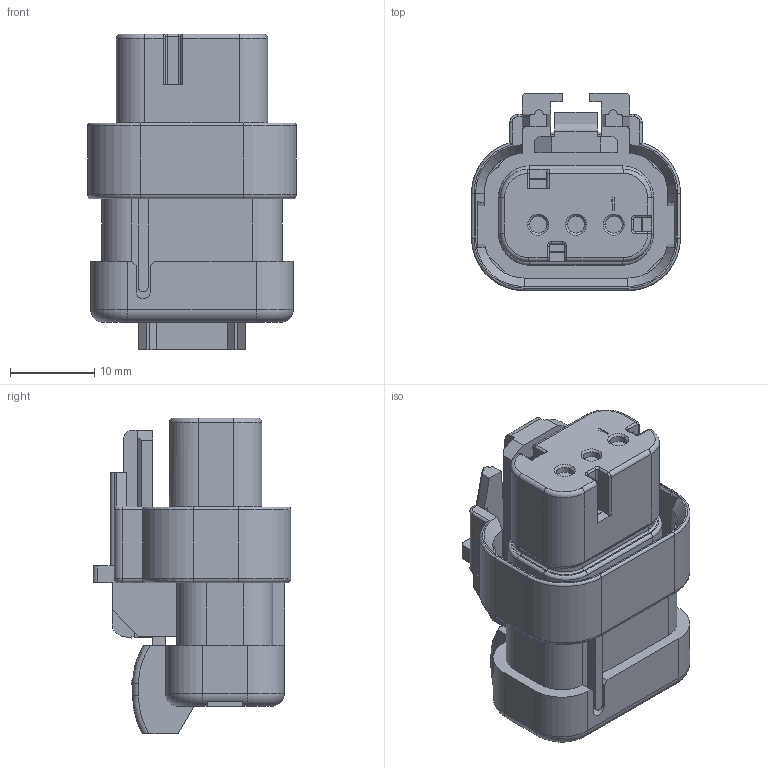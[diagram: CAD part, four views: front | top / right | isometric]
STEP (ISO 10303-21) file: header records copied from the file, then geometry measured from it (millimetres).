
FILE_DESCRIPTION((''),'2;1');
FILE_NAME('C-776523-3','2014-01-10T',('workeradm'),('Tyco Electronics Ltd.'),'PRO/ENGINEER BY PARAMETRIC TECHNOLOGY CORPORATION, 2013050','PRO/ENGINEER BY PARAMETRIC TECHNOLOGY CORPORATION, 2013050','');
FILE_SCHEMA(('AUTOMOTIVE_DESIGN { 1 0 10303 214 1 1 1 1 }'));
Length unit declared in the file: millimetre
Products named in the file (1): C-776523-3
Bounding box: 24.83 x 23.47 x 37.5 mm (x, y, z)
Volume: 9941.6 mm3; surface area: 6622.7 mm2
Topology: 1 solids, 1 shells, 510 faces, 1379 edges, 874 vertices
Faces by surface type: plane 300, cylinder 146, torus 43, cone 14, bspline 7
Entity records: 16577 total; most frequent: CARTESIAN_POINT 3365, ORIENTED_EDGE 2758, DIRECTION 2719, EDGE_CURVE 1379, VECTOR 997, LINE 997, VERTEX_POINT 874, AXIS2_PLACEMENT_3D 861
